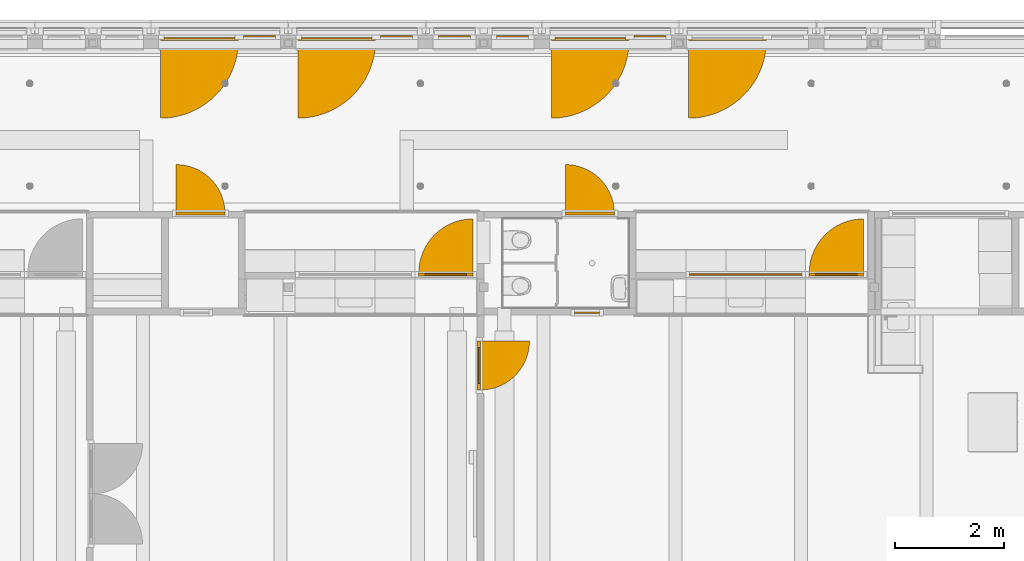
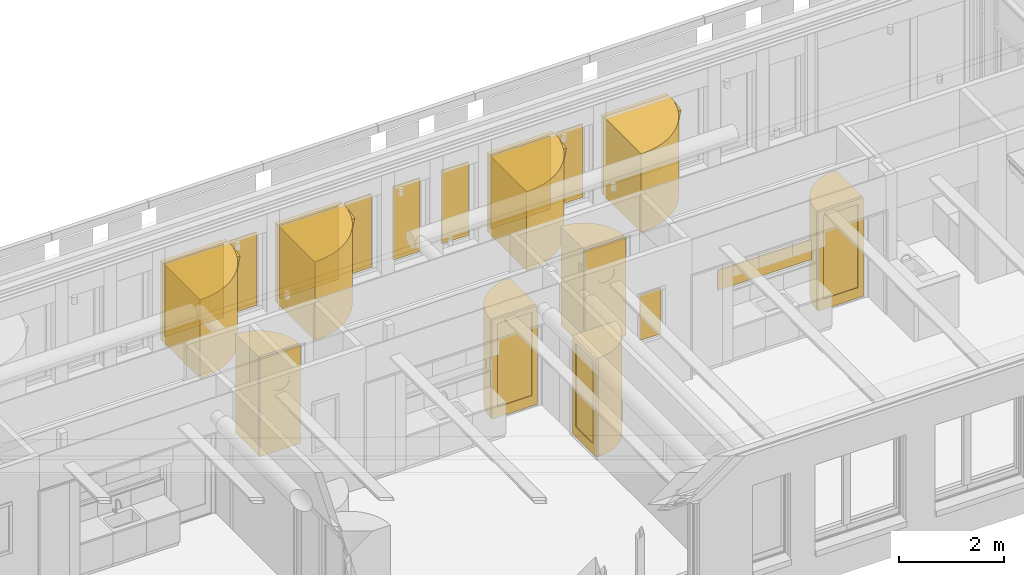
# One storey, part 69 of 128: 26 windows, 5 doors, 9 elements without a shape of their own.
"""IFC2X3 building model written with IfcOpenShell, lengths in millimetres."""

from ifc_helpers import new_model, entity, si_unit, converted_unit, derived_unit, direction, frame, frame_2d, origin, origin_2d_with_axis, place, context, subcontext, project, spatial, polyline, circle_curve, parameter, trimmed, segment, composite_curve, rectangle, circle, outline, extrude, source, transform, mapped, material, material_list, type_object, type_shapes, element, aggregate, save


model = new_model("IFC2X3")

# Units and contexts
model_context = context("Model", 3, precision=0.01, world=origin(), true_north=direction((6.123031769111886e-17, 1.0)))
body_context = subcontext(model_context, "Body", "Model", "MODEL_VIEW")
ifc_project = project(units=[si_unit("LENGTHUNIT", "METRE", prefix="MILLI"), si_unit("AREAUNIT", "SQUARE_METRE"), si_unit("VOLUMEUNIT", "CUBIC_METRE"), converted_unit("PLANEANGLEUNIT", "DEGREE", entity("IfcRatioMeasure", 0.017453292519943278), si_unit("PLANEANGLEUNIT", "RADIAN"), dimensions=[0, 0, 0, 0, 0, 0, 0]), si_unit("MASSUNIT", "GRAM", prefix="KILO"), derived_unit("MASSDENSITYUNIT", [(si_unit("MASSUNIT", "GRAM", prefix="KILO"), 1), (si_unit("LENGTHUNIT", "METRE"), -3)]), derived_unit("IONCONCENTRATIONUNIT", [(si_unit("MASSUNIT", "GRAM", prefix="KILO"), 1), (si_unit("LENGTHUNIT", "METRE"), -3)]), derived_unit("MOMENTOFINERTIAUNIT", [(si_unit("LENGTHUNIT", "METRE"), 4)]), si_unit("TIMEUNIT", "SECOND"), si_unit("FREQUENCYUNIT", "HERTZ"), si_unit("THERMODYNAMICTEMPERATUREUNIT", "DEGREE_CELSIUS"), derived_unit("THERMALTRANSMITTANCEUNIT", [(si_unit("MASSUNIT", "GRAM", prefix="KILO"), 1), (si_unit("THERMODYNAMICTEMPERATUREUNIT", "KELVIN"), -1), (si_unit("TIMEUNIT", "SECOND"), -3)]), derived_unit("THERMALCONDUCTANCEUNIT", [(si_unit("MASSUNIT", "GRAM", prefix="KILO"), 1), (si_unit("THERMODYNAMICTEMPERATUREUNIT", "KELVIN"), -1), (si_unit("TIMEUNIT", "SECOND"), -3), (si_unit("LENGTHUNIT", "METRE"), 1)]), derived_unit("VOLUMETRICFLOWRATEUNIT", [(si_unit("LENGTHUNIT", "METRE"), 3), (si_unit("TIMEUNIT", "SECOND"), -1)]), derived_unit("MASSFLOWRATEUNIT", [(si_unit("MASSUNIT", "GRAM", prefix="KILO"), 1), (si_unit("TIMEUNIT", "SECOND"), -1)]), derived_unit("ROTATIONALFREQUENCYUNIT", [(si_unit("TIMEUNIT", "SECOND"), -1)]), si_unit("ELECTRICCURRENTUNIT", "AMPERE"), si_unit("ELECTRICVOLTAGEUNIT", "VOLT"), si_unit("POWERUNIT", "WATT"), si_unit("FORCEUNIT", "NEWTON", prefix="KILO"), si_unit("ILLUMINANCEUNIT", "LUX"), si_unit("LUMINOUSFLUXUNIT", "LUMEN"), si_unit("LUMINOUSINTENSITYUNIT", "CANDELA"), derived_unit("USERDEFINED", [(si_unit("MASSUNIT", "GRAM", prefix="KILO"), -1), (si_unit("LENGTHUNIT", "METRE"), -2), (si_unit("TIMEUNIT", "SECOND"), 3), (si_unit("LUMINOUSFLUXUNIT", "LUMEN"), 1)]), derived_unit("USERDEFINED", [(si_unit("MASSUNIT", "GRAM", prefix="KILO"), 1), (si_unit("TIMEUNIT", "SECOND"), -3), (si_unit("LENGTHUNIT", "METRE"), 3), (si_unit("ELECTRICCURRENTUNIT", "AMPERE"), -2)]), derived_unit("SOUNDPOWERUNIT", [(si_unit("MASSUNIT", "GRAM", prefix="KILO"), 1), (si_unit("TIMEUNIT", "SECOND"), -3), (si_unit("LENGTHUNIT", "METRE"), 2)]), derived_unit("SOUNDPRESSUREUNIT", [(si_unit("MASSUNIT", "GRAM", prefix="KILO"), 1), (si_unit("LENGTHUNIT", "METRE"), -1), (si_unit("TIMEUNIT", "SECOND"), -2)]), derived_unit("LINEARVELOCITYUNIT", [(si_unit("LENGTHUNIT", "METRE"), 1), (si_unit("TIMEUNIT", "SECOND"), -1)]), si_unit("PRESSUREUNIT", "PASCAL"), derived_unit("USERDEFINED", [(si_unit("MASSUNIT", "GRAM", prefix="KILO"), 1), (si_unit("LENGTHUNIT", "METRE"), -2), (si_unit("TIMEUNIT", "SECOND"), -2)]), derived_unit("LINEARFORCEUNIT", [(si_unit("MASSUNIT", "GRAM", prefix="KILO"), 1), (si_unit("TIMEUNIT", "SECOND"), -2)]), derived_unit("PLANARFORCEUNIT", [(si_unit("MASSUNIT", "GRAM", prefix="KILO"), 1), (si_unit("LENGTHUNIT", "METRE"), -1), (si_unit("TIMEUNIT", "SECOND"), -2)]), derived_unit("SPECIFICHEATCAPACITYUNIT", [(si_unit("THERMODYNAMICTEMPERATUREUNIT", "KELVIN"), -1), (si_unit("LENGTHUNIT", "METRE"), 2), (si_unit("TIMEUNIT", "SECOND"), -2)]), derived_unit("HEATINGVALUEUNIT", [(si_unit("LENGTHUNIT", "METRE"), 2), (si_unit("TIMEUNIT", "SECOND"), -2)]), derived_unit("VAPORPERMEABILITYUNIT", [(si_unit("LENGTHUNIT", "METRE"), -1), (si_unit("TIMEUNIT", "SECOND"), 1)]), derived_unit("DYNAMICVISCOSITYUNIT", [(si_unit("MASSUNIT", "GRAM", prefix="KILO"), 1), (si_unit("TIMEUNIT", "SECOND"), -1), (si_unit("LENGTHUNIT", "METRE"), -1)]), derived_unit("THERMALEXPANSIONCOEFFICIENTUNIT", [(si_unit("THERMODYNAMICTEMPERATUREUNIT", "KELVIN"), -1)]), derived_unit("MODULUSOFELASTICITYUNIT", [(si_unit("MASSUNIT", "GRAM", prefix="KILO"), 1), (si_unit("LENGTHUNIT", "METRE"), -1), (si_unit("TIMEUNIT", "SECOND"), -2)]), derived_unit("ISOTHERMALMOISTURECAPACITYUNIT", [(si_unit("LENGTHUNIT", "METRE"), 3), (si_unit("MASSUNIT", "GRAM", prefix="KILO"), -1)]), derived_unit("MOISTUREDIFFUSIVITYUNIT", [(si_unit("TIMEUNIT", "SECOND"), -1), (si_unit("LENGTHUNIT", "METRE"), 2)])], contexts=[model_context])

# Site, building, storey
site_placement = place(None, frame((0.0, 300.0, 0.0)))
site = spatial("IfcSite", under=ifc_project, at=site_placement, Name="<Kadastrale nummers>", CompositionType="ELEMENT")
building_placement = place(site_placement, origin())
building = spatial("IfcBuilding", under=site, at=building_placement, CompositionType="ELEMENT")
storey_placement = place(building_placement, frame((0.0, 0.0, 3560.0000331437)))
storey = spatial("IfcBuildingStorey", under=building, at=storey_placement, Name="01 eerste verdieping", CompositionType="ELEMENT", Elevation=3560.0000331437)

# Windows
ifc_material_1 = material(Name="Clearance Zones")
window_style_1 = type_object("IfcWindowStyle", Name="BU deur links:BU deur links", ConstructionType="NOTDEFINED", OperationType="NOTDEFINED", ParameterTakesPrecedence=False, Sizeable=False, material=ifc_material_1)
shared_shape_1 = source(origin(), body_context, "Body", "SweptSolid", [
    extrude(outline(composite_curve([segment(trimmed(circle_curve(frame_2d((300.0, 300.0), x_axis=(1.0, 0.0)), 900.0000000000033), [parameter(180.00000000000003)], [parameter(269.9999999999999)], True, "PARAMETER"), True, "CONTINUOUS"), segment(polyline([(300.0, -600.0), (300.0, 300.0)]), True, "CONTINUOUS"), segment(polyline([(300.0, 300.0), (-600.0, 300.0)]), True, "CONTINUOUS")], self_intersect=False)), frame((-150.0, 327.0, -20.0), z_axis=(0.0, 0.0, 1.0), x_axis=(-1.0, 0.0, 0.0)), (0.0, 0.0, 1.0), 2303.0000000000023),
])
type_shapes(window_style_1, [shared_shape_1])
for number, where, name in (
    (1, (26558.00137672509, 46633.24999999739, 130.00000187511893), "BU deur links:BU deur links"),
    (2, (19383.00137671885, 46633.25000000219, 130.00000187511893), "BU deur links:BU deur links"),
):
    element("IfcWindow", number, at=place(storey_placement, frame(where)), inside=storey, type_object=window_style_1, material=ifc_material_1, Name=name, ObjectType="BU deur links:BU deur links", OverallHeight=1184.0000000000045, OverallWidth=900.0000000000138, context=body_context, shape_type="MappedRepresentation", body=[
        mapped(shared_shape_1, transform((0.0, 0.0, 0.0), scale=1.0)),
    ])
window_1_placement = place(storey_placement, frame((24517.0, 43858.0, 130.00000187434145), z_axis=(0.0, 0.0, 1.0), x_axis=(0.0, -1.0, 0.0)))
element("IfcWindow", 3, at=window_1_placement, inside=storey, type_object=window_style_1, material=ifc_material_1, Name="BU deur links:BU deur links", ObjectType="BU deur links:BU deur links", OverallHeight=1184.0000000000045, OverallWidth=900.0000000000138, context=body_context, shape_type="MappedRepresentation", body=[
    mapped(shared_shape_1, transform((0.0, 0.0, 0.0), scale=1.0)),
])

# Curtain wall, door
curtain_wall_type_1 = type_object("IfcCurtainWallType", Name="Curtain Wall:Merk H09", PredefinedType="NOTDEFINED")
curtain_wall_1_placement = place(storey_placement, frame((0.0, 0.0, -3560.0000331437)))
curtain_wall_1 = element("IfcCurtainWall", 4, at=curtain_wall_1_placement, inside=storey, type_object=curtain_wall_type_1, Name="Curtain Wall:Merk H09", ObjectType="Curtain Wall:Merk H09")
ifc_material_2 = material(Name="ISR_HPL Kleur hout")
door_style_1 = type_object("IfcDoorStyle", Name="31_DO_deur_met_stapeldorpel:deur_met_stapeldorpel", ConstructionType="NOTDEFINED", OperationType="NOTDEFINED", ParameterTakesPrecedence=False, Sizeable=False, material=ifc_material_2)
shared_shape_2 = source(origin(), body_context, "Body", "SweptSolid", [
    extrude(outline(polyline([(-500.0, -1151.4999999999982), (500.0, -1151.4999999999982), (500.0, 1151.4999999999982), (-500.0, 1151.4999999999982), (-500.0, -1151.4999999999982)]), holes=[polyline([(-380.0, 911.499999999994), (380.0, 911.4999999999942), (380.0, -1031.4999999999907), (-380.0, -1031.499999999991), (-380.0, 911.499999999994)])]), frame((0.0, 57.0, 1151.5000000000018), z_axis=(0.0, 1.0, 0.0), x_axis=(1.0, 0.0, 0.0)), (0.0, 0.0, 1.0), 26.999999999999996),
    extrude(outline(polyline([(-500.0, -1151.4999999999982), (500.0, -1151.4999999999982), (500.0, 1151.4999999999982), (-500.0, 1151.4999999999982), (-500.0, -1151.4999999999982)]), holes=[polyline([(-380.0, 911.4999999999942), (380.0, 911.4999999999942), (380.0, -1031.4999999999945), (-380.0, -1031.4999999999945), (-380.0, 911.4999999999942)])]), frame((0.0, 30.0, 1151.5000000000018), z_axis=(0.0, 1.0, 0.0), x_axis=(1.0, 0.0, 0.0)), (0.0, 0.0, 1.0), 26.99999999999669),
])
type_shapes(door_style_1, [shared_shape_2])
door_1_placement = place(curtain_wall_1_placement, frame((23903.0, 45476.0, 3670.0000350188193)))
door_1 = element("IfcDoor", 5, at=door_1_placement, type_object=door_style_1, material=ifc_material_2, Name="31_DO_deur_met_stapeldorpel:deur_met_stapeldorpel", ObjectType="31_DO_deur_met_stapeldorpel:deur_met_stapeldorpel", OverallHeight=2303.0000000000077, OverallWidth=1000.0000000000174, context=body_context, shape_type="MappedRepresentation", body=[
    mapped(shared_shape_2, transform((0.0, 0.0, 0.0), scale=1.0)),
])
aggregate(curtain_wall_1, [door_1])

curtain_wall_2_placement = place(storey_placement, frame((0.0, 0.0, -3560.0000331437)))
curtain_wall_2 = element("IfcCurtainWall", 6, at=curtain_wall_2_placement, inside=storey, type_object=curtain_wall_type_1, Name="Curtain Wall:Merk H09", ObjectType="Curtain Wall:Merk H09")
door_2_placement = place(curtain_wall_2_placement, frame((31098.0, 45476.0, 3670.0000350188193)))
door_2 = element("IfcDoor", 7, at=door_2_placement, type_object=door_style_1, material=ifc_material_2, Name="31_DO_deur_met_stapeldorpel:deur_met_stapeldorpel", ObjectType="31_DO_deur_met_stapeldorpel:deur_met_stapeldorpel", OverallHeight=2303.0000000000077, OverallWidth=1000.0000000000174, context=body_context, shape_type="MappedRepresentation", body=[
    mapped(shared_shape_2, transform((0.0, 0.0, 0.0), scale=1.0)),
])
aggregate(curtain_wall_2, [door_2])

# Window
ifc_material_3 = material(Name="glas_enscape")
window_style_2 = type_object("IfcWindowStyle", Name="WI_subvak1:glas 2", ConstructionType="NOTDEFINED", OperationType="NOTDEFINED", ParameterTakesPrecedence=False, Sizeable=False, material=ifc_material_3)
shared_shape_3 = source(origin(), body_context, "Body", "SweptSolid", [
    extrude(rectangle(XDim=660.0000000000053, YDim=24.00000000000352, at=origin_2d_with_axis()), origin(), (0.0, 0.0, 1.0), 1942.999999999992),
])
type_shapes(window_style_2, [shared_shape_3])
window_2_placement = place(storey_placement, frame((24517.0, 43858.0, 350.00000187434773), z_axis=(0.0, 0.0, 1.0), x_axis=(0.0, 1.0, 0.0)))
element("IfcWindow", 8, at=window_2_placement, inside=storey, type_object=window_style_2, material=ifc_material_3, Name="WI_subvak1:glas 2", ObjectType="WI_subvak1:glas 2", OverallHeight=609.9286498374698, OverallWidth=660.0000000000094, context=body_context, shape_type="MappedRepresentation", body=[
    mapped(shared_shape_3, transform((0.0, 0.0, 0.0), scale=1.0)),
])

# Curtain wall, door
curtain_wall_type_2 = type_object("IfcCurtainWallType", Name="Curtain Wall:Merk H01", PredefinedType="NOTDEFINED")
curtain_wall_3_placement = place(storey_placement, frame((0.0, 0.0, -3560.0000331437)))
curtain_wall_3 = element("IfcCurtainWall", 9, at=curtain_wall_3_placement, inside=storey, type_object=curtain_wall_type_2, Name="Curtain Wall:Merk H01", ObjectType="Curtain Wall:Merk H01")
ifc_material_4 = material(Name="ISR_Kunststof_wit")
ifc_material_5 = material(Name="ISR_Mass_Glazing")
ifc_material_list = material_list([ifc_material_4, ifc_material_5])
door_style_2 = type_object("IfcDoorStyle", Name="31_DO_Rondgat_deur:dichte_deur", ConstructionType="NOTDEFINED", OperationType="NOTDEFINED", ParameterTakesPrecedence=False, Sizeable=False, material=ifc_material_list)
shared_shape_4 = source(origin(), body_context, "Body", "SweptSolid", [
    extrude(outline(polyline([(-450.0, -1151.5000000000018), (450.0, -1151.5000000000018), (450.0, 1151.4999999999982), (-450.0, 1151.5000000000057), (-450.0, -1151.5000000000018)]), holes=[composite_curve([segment(trimmed(circle_curve(frame_2d((0.0, -448.5000000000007), x_axis=(1.0, 0.0)), 200.0), [parameter(4.0711099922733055e-13)], [parameter(179.99999999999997)], True, "PARAMETER"), False, "CONTINUOUS"), segment(trimmed(circle_curve(frame_2d((0.0, -448.5000000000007), x_axis=(1.0, 0.0)), 200.0), [parameter(179.99999999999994)], [parameter(359.9999999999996)], True, "PARAMETER"), False, "CONTINUOUS")], self_intersect=False)]), frame((0.0, 57.0, 1151.5000000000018), z_axis=(0.0, -1.0, 0.0), x_axis=(-1.0, 0.0, 0.0)), (0.0, 0.0, 1.0), 26.999999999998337),
    extrude(outline(polyline([(-450.0, -1151.500000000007), (450.0, -1151.500000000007), (450.0, 1151.499999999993), (-450.0, 1151.5000000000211), (-450.0, -1151.500000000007)]), holes=[composite_curve([segment(trimmed(circle_curve(frame_2d((0.0, -448.49999999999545), x_axis=(1.0, 0.0)), 200.0), [parameter(4.0711099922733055e-13)], [parameter(179.99999999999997)], True, "PARAMETER"), False, "CONTINUOUS"), segment(trimmed(circle_curve(frame_2d((0.0, -448.49999999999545), x_axis=(1.0, 0.0)), 200.0), [parameter(179.99999999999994)], [parameter(359.9999999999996)], True, "PARAMETER"), False, "CONTINUOUS")], self_intersect=False)]), frame((0.0, 84.0, 1151.500000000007), z_axis=(0.0, -1.0, 0.0), x_axis=(-1.0, 0.0, 0.0)), (0.0, 0.0, 1.0), 26.999999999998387),
    extrude(circle(Radius=200.0, at=frame_2d((0.0, -2.707167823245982e-13), x_axis=(1.0, 0.0))), frame((0.0, 66.449031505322, 1600.0), z_axis=(0.0, -1.0, 0.0), x_axis=(1.0, 0.0, 0.0)), (0.0, 0.0, 1.0), 25.1297239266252),
])
type_shapes(door_style_2, [shared_shape_4])
door_3_placement = place(curtain_wall_3_placement, frame((26558.001376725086, 46606.0, 3670.00003501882)))
door_3 = element("IfcDoor", 10, at=door_3_placement, type_object=door_style_2, material=ifc_material_list, Name="31_DO_Rondgat_deur:dichte_deur", ObjectType="31_DO_Rondgat_deur:dichte_deur", OverallHeight=2303.000000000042, OverallWidth=900.0000000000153, context=body_context, shape_type="MappedRepresentation", body=[
    mapped(shared_shape_4, transform((0.0, 0.0, 0.0), scale=1.0)),
])
aggregate(curtain_wall_3, [door_3])

curtain_wall_4_placement = place(storey_placement, frame((0.0, 0.0, -3560.0000331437)))
curtain_wall_4 = element("IfcCurtainWall", 11, at=curtain_wall_4_placement, inside=storey, type_object=curtain_wall_type_2, Name="Curtain Wall:Merk H01", ObjectType="Curtain Wall:Merk H01")
door_4_placement = place(curtain_wall_4_placement, frame((19383.001376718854, 46606.0, 3670.00003501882)))
door_4 = element("IfcDoor", 12, at=door_4_placement, type_object=door_style_2, material=ifc_material_list, Name="31_DO_Rondgat_deur:dichte_deur", ObjectType="31_DO_Rondgat_deur:dichte_deur", OverallHeight=2303.000000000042, OverallWidth=900.0000000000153, context=body_context, shape_type="MappedRepresentation", body=[
    mapped(shared_shape_4, transform((0.0, 0.0, 0.0), scale=1.0)),
])
aggregate(curtain_wall_4, [door_4])

# Windows
window_style_3 = type_object("IfcWindowStyle", Name="WI_subvak1:glas 4", ConstructionType="NOTDEFINED", OperationType="NOTDEFINED", ParameterTakesPrecedence=False, Sizeable=False, material=ifc_material_3)
shared_shape_5 = source(origin(), body_context, "Body", "SweptSolid", [
    extrude(rectangle(XDim=24.000000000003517, YDim=466.0000000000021, at=origin_2d_with_axis()), frame((0.0, 0.0, 0.0), z_axis=(0.0, 0.0, 1.0), x_axis=(0.0, -1.0, 0.0)), (0.0, 0.0, 1.0), 1055.9999999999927),
])
type_shapes(window_style_3, [shared_shape_5])
window_3_placement = place(storey_placement, frame((26505.0, 44832.0, 1357.0), z_axis=(0.0, 0.0, 1.0), x_axis=(-1.0, 0.0, 0.0)))
element("IfcWindow", 13, at=window_3_placement, inside=storey, type_object=window_style_3, material=ifc_material_3, Name="WI_subvak1:glas 4", ObjectType="WI_subvak1:glas 4", OverallHeight=609.9286498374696, OverallWidth=466.00000000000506, context=body_context, shape_type="MappedRepresentation", body=[
    mapped(shared_shape_5, transform((0.0, 0.0, 0.0), scale=1.0)),
])
window_style_4 = type_object("IfcWindowStyle", Name="WI_subvak1:glas 4", ConstructionType="NOTDEFINED", OperationType="NOTDEFINED", ParameterTakesPrecedence=False, Sizeable=False, material=ifc_material_3)
shared_shape_6 = source(origin(), body_context, "Body", "SweptSolid", [
    extrude(rectangle(XDim=24.000000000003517, YDim=2071.0000000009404, at=frame_2d((0.0, 1.1368683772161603e-13), x_axis=(1.0, 0.0))), frame((0.0, 0.0, 0.0), z_axis=(0.0, 0.0, 1.0), x_axis=(0.0, -1.0, 0.0)), (0.0, 0.0, 1.0), 465.9999999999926),
])
type_shapes(window_style_4, [shared_shape_6])
window_4_placement = place(storey_placement, frame((29428.500000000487, 45533.0, 1357.0)))
element("IfcWindow", 14, at=window_4_placement, inside=storey, type_object=window_style_4, material=ifc_material_3, Name="WI_subvak1:glas 4", ObjectType="WI_subvak1:glas 4", OverallHeight=609.9286498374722, OverallWidth=2071.0000000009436, context=body_context, shape_type="MappedRepresentation", body=[
    mapped(shared_shape_6, transform((0.0, 0.0, 0.0), scale=1.0)),
])
window_style_5 = type_object("IfcWindowStyle", Name="WI_subvak1:glas 2", ConstructionType="NOTDEFINED", OperationType="NOTDEFINED", ParameterTakesPrecedence=False, Sizeable=False, material=ifc_material_3)
shared_shape_7 = source(origin(), body_context, "Body", "SweptSolid", [
    extrude(rectangle(XDim=24.000000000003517, YDim=759.9999999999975, at=frame_2d((0.0, -2.842170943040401e-14), x_axis=(1.0, 0.0))), frame((0.0, 0.0, 0.0), z_axis=(0.0, 0.0, 1.0), x_axis=(0.0, -1.0, 0.0)), (0.0, 0.0, 1.0), 1942.999999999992),
])
type_shapes(window_style_5, [shared_shape_7])
for number, where, name in (
    (15, (23903.0, 45533.0, 350.00000187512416), "WI_subvak1:glas 2"),
    (16, (31098.0, 45533.0, 350.00000187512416), "WI_subvak1:glas 2"),
):
    element("IfcWindow", number, at=place(storey_placement, frame(where)), inside=storey, type_object=window_style_5, material=ifc_material_3, Name=name, ObjectType="WI_subvak1:glas 2", OverallHeight=609.9286498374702, OverallWidth=760.0000000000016, context=body_context, shape_type="MappedRepresentation", body=[
        mapped(shared_shape_7, transform((0.0, 0.0, 0.0), scale=1.0)),
    ])
window_style_6 = type_object("IfcWindowStyle", Name="BU deur links:BU deur links", ConstructionType="NOTDEFINED", OperationType="NOTDEFINED", ParameterTakesPrecedence=False, Sizeable=False, material=ifc_material_1)
shared_shape_8 = source(origin(), body_context, "Body", "SweptSolid", [
    extrude(outline(composite_curve([segment(polyline([(-666.6666666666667, -333.33333333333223), (333.3333333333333, -333.33333333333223)]), True, "CONTINUOUS"), segment(polyline([(333.3333333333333, -333.33333333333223), (333.33333333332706, 666.6666666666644)]), True, "CONTINUOUS"), segment(trimmed(circle_curve(frame_2d((333.3333333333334, -333.33333333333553), x_axis=(1.0, 0.0)), 1000.0000000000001), [parameter(90.00000000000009)], [parameter(179.99999999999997)], True, "PARAMETER"), True, "CONTINUOUS")], self_intersect=False)), frame((-166.66666666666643, -360.3333333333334, -20.0), z_axis=(0.0, 0.0, 1.0), x_axis=(-1.0, 0.0, 0.0)), (0.0, 0.0, 1.0), 2303.0000000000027),
])
type_shapes(window_style_6, [shared_shape_8])
for number, where, z_axis, x_axis, name in (
    (17, (23903.0, 45533.0, 130.00000187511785), (0.0, 0.0, 1.0), (-1.0, 0.0, 0.0), "BU deur links:BU deur links"),
    (18, (31098.0, 45533.0, 130.00000187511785), (0.0, 0.0, 1.0), (-1.0, 0.0, 0.0), "BU deur links:BU deur links"),
):
    element("IfcWindow", number, at=place(storey_placement, frame(where, z_axis=z_axis, x_axis=x_axis)), inside=storey, type_object=window_style_6, material=ifc_material_1, Name=name, ObjectType="BU deur links:BU deur links", OverallHeight=1284.0000000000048, OverallWidth=1000.0000000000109, context=body_context, shape_type="MappedRepresentation", body=[
        mapped(shared_shape_8, transform((0.0, 0.0, 0.0), scale=1.0)),
    ])

# Curtain wall, door
curtain_wall_type_3 = type_object("IfcCurtainWallType", Name="Curtain Wall:Merk H16", PredefinedType="NOTDEFINED")
curtain_wall_5_placement = place(storey_placement, frame((0.0, 0.0, -3560.0000331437)))
curtain_wall_5 = element("IfcCurtainWall", 19, at=curtain_wall_5_placement, inside=storey, type_object=curtain_wall_type_3, Name="Curtain Wall:Merk H16", ObjectType="Curtain Wall:Merk H16")
ifc_material_6 = material(Name="HPL F7853 ocean gray")
door_style_3 = type_object("IfcDoorStyle", Name="31_DO_deur_met_stapeldorpel:deur_met_stapeldorpel", ConstructionType="NOTDEFINED", OperationType="NOTDEFINED", ParameterTakesPrecedence=False, Sizeable=False, material=ifc_material_6)
shared_shape_9 = source(origin(), body_context, "Body", "SweptSolid", [
    extrude(outline(polyline([(-450.0, -1151.4999999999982), (450.0, -1151.4999999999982), (450.0, 1151.4999999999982), (-450.0, 1151.4999999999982), (-450.0, -1151.4999999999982)]), holes=[polyline([(-330.0, 911.499999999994), (330.0, 911.4999999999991), (330.0, -1031.4999999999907), (-330.0, -1031.499999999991), (-330.0, 911.499999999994)])]), frame((0.0, 84.0, 1151.5000000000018), z_axis=(0.0, -1.0, 0.0), x_axis=(-1.0, 0.0, 0.0)), (0.0, 0.0, 1.0), 26.999999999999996),
    extrude(outline(polyline([(-450.0, -1151.4999999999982), (450.0, -1151.4999999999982), (450.0, 1151.4999999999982), (-450.0, 1151.4999999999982), (-450.0, -1151.4999999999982)]), holes=[polyline([(-330.0, 911.4999999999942), (330.0, 911.4999999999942), (330.0, -1031.4999999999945), (-330.0, -1031.4999999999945), (-330.0, 911.4999999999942)])]), frame((0.0, 57.0, 1151.5000000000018), z_axis=(0.0, -1.0, 0.0), x_axis=(-1.0, 0.0, 0.0)), (0.0, 0.0, 1.0), 26.99999999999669),
])
type_shapes(door_style_3, [shared_shape_9])
door_5_placement = place(curtain_wall_5_placement, frame((24460.0, 43858.0, 3670.0000350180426), z_axis=(0.0, 0.0, 1.0), x_axis=(0.0, -1.0, 0.0)))
door_5 = element("IfcDoor", 20, at=door_5_placement, type_object=door_style_3, material=ifc_material_6, Name="31_DO_deur_met_stapeldorpel:deur_met_stapeldorpel", ObjectType="31_DO_deur_met_stapeldorpel:deur_met_stapeldorpel", OverallHeight=2303.0000000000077, OverallWidth=900.0000000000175, context=body_context, shape_type="MappedRepresentation", body=[
    mapped(shared_shape_9, transform((0.0, 0.0, 0.0), scale=1.0)),
])
aggregate(curtain_wall_5, [door_5])

# Curtain wall, window
curtain_wall_type_4 = type_object("IfcCurtainWallType", Name="Curtain Wall:K_22", PredefinedType="NOTDEFINED")
curtain_wall_6_placement = place(storey_placement, frame((0.0, 0.0, -3560.0000331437)))
curtain_wall_6 = element("IfcCurtainWall", 21, at=curtain_wall_6_placement, inside=storey, type_object=curtain_wall_type_4, Name="Curtain Wall:K_22", ObjectType="Curtain Wall:K_22")
ifc_material_7 = material(Name="ISR_Aluminium")
window_style_7 = type_object("IfcWindowStyle", Name="31_WI_raam_1:GEALAN KUBUS RAAM", ConstructionType="NOTDEFINED", OperationType="NOTDEFINED", ParameterTakesPrecedence=False, Sizeable=False, material=ifc_material_7)
shared_shape_10 = source(origin(), body_context, "Body", "SweptSolid", [
    extrude(outline(polyline([(-717.0, -918.9999824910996), (717.0, -918.9999824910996), (717.0, 918.9999824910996), (-717.0, 918.9999824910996), (-717.0, -918.9999824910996)]), holes=[polyline([(-653.0, 854.9999824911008), (653.0, 854.9999824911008), (653.0, -854.9999824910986), (-653.0, -854.9999824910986), (-653.0, 854.9999824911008)])]), frame((0.0, 63.0, 854.9999824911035), z_axis=(0.0, -1.0, 0.0), x_axis=(-1.0, 0.0, 0.0)), (0.0, 0.0, 1.0), 40.50000000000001),
    extrude(outline(polyline([(-717.0, -918.9999824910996), (717.0, -918.9999824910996), (717.0, 918.9999824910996), (-717.0, 918.9999824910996), (-717.0, -918.9999824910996)]), holes=[polyline([(-653.0, 854.9999824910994), (653.0, 854.9999824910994), (653.0, -854.9999824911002), (-653.0, -854.9999824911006), (-653.0, 854.9999824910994)])]), frame((0.0, 22.499999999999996, 854.9999824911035), z_axis=(0.0, -1.0, 0.0), x_axis=(-1.0, 0.0, 0.0)), (0.0, 0.0, 1.0), 40.5),
])
type_shapes(window_style_7, [shared_shape_10])
window_5_placement = place(curtain_wall_6_placement, frame((29093.0, 49868.0, 4580.0000331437)))
window_5 = element("IfcWindow", 22, at=window_5_placement, type_object=window_style_7, material=ifc_material_7, Name="31_WI_raam_1:GEALAN KUBUS RAAM", ObjectType="31_WI_raam_1:GEALAN KUBUS RAAM", OverallHeight=1853.9999649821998, OverallWidth=1434.0000000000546, context=body_context, shape_type="MappedRepresentation", body=[
    mapped(shared_shape_10, transform((0.0, 0.0, 0.0), scale=1.0)),
])
aggregate(curtain_wall_6, [window_5])

curtain_wall_7_placement = place(storey_placement, frame((0.0, 0.0, -3560.0000331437)))
curtain_wall_7 = element("IfcCurtainWall", 23, at=curtain_wall_7_placement, inside=storey, type_object=curtain_wall_type_4, Name="Curtain Wall:K_22", ObjectType="Curtain Wall:K_22")
window_6_placement = place(curtain_wall_7_placement, frame((26563.0, 49868.0, 4580.0000331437)))
window_6 = element("IfcWindow", 24, at=window_6_placement, type_object=window_style_7, material=ifc_material_7, Name="31_WI_raam_1:GEALAN KUBUS RAAM", ObjectType="31_WI_raam_1:GEALAN KUBUS RAAM", OverallHeight=1853.9999649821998, OverallWidth=1434.0000000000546, context=body_context, shape_type="MappedRepresentation", body=[
    mapped(shared_shape_10, transform((0.0, 0.0, 0.0), scale=1.0)),
])
aggregate(curtain_wall_7, [window_6])

curtain_wall_8_placement = place(storey_placement, frame((0.0, 0.0, -3560.0000331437)))
curtain_wall_8 = element("IfcCurtainWall", 25, at=curtain_wall_8_placement, inside=storey, type_object=curtain_wall_type_4, Name="Curtain Wall:K_22", ObjectType="Curtain Wall:K_22")
window_7_placement = place(curtain_wall_8_placement, frame((21893.0, 49868.0, 4580.0000331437)))
window_7 = element("IfcWindow", 26, at=window_7_placement, type_object=window_style_7, material=ifc_material_7, Name="31_WI_raam_1:GEALAN KUBUS RAAM", ObjectType="31_WI_raam_1:GEALAN KUBUS RAAM", OverallHeight=1853.9999649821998, OverallWidth=1434.0000000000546, context=body_context, shape_type="MappedRepresentation", body=[
    mapped(shared_shape_10, transform((0.0, 0.0, 0.0), scale=1.0)),
])
aggregate(curtain_wall_8, [window_7])

curtain_wall_9_placement = place(storey_placement, frame((0.0, 0.0, -3560.0000331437)))
curtain_wall_9 = element("IfcCurtainWall", 27, at=curtain_wall_9_placement, inside=storey, type_object=curtain_wall_type_4, Name="Curtain Wall:K_22", ObjectType="Curtain Wall:K_22")
window_8_placement = place(curtain_wall_9_placement, frame((19363.0, 49868.0, 4580.0000331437)))
window_8 = element("IfcWindow", 28, at=window_8_placement, type_object=window_style_7, material=ifc_material_7, Name="31_WI_raam_1:GEALAN KUBUS RAAM", ObjectType="31_WI_raam_1:GEALAN KUBUS RAAM", OverallHeight=1853.9999649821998, OverallWidth=1434.0000000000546, context=body_context, shape_type="MappedRepresentation", body=[
    mapped(shared_shape_10, transform((0.0, 0.0, 0.0), scale=1.0)),
])
aggregate(curtain_wall_9, [window_8])

# Windows
window_style_8 = type_object("IfcWindowStyle", Name="WI_subvak1:glas 4", ConstructionType="NOTDEFINED", OperationType="NOTDEFINED", ParameterTakesPrecedence=False, Sizeable=False, material=ifc_material_3)
shared_shape_11 = source(origin(), body_context, "Body", "SweptSolid", [
    extrude(rectangle(XDim=590.000000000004, YDim=24.00000000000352, at=frame_2d((0.0, -1.7763568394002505e-15), x_axis=(1.0, 0.0))), origin(), (0.0, 0.0, 1.0), 1709.9999649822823),
])
type_shapes(window_style_8, [shared_shape_11])
for number, where, z_axis, x_axis, name in (
    (29, (25135.0, 49925.0, 1020.0), (0.0, 0.0, 1.0), (-1.0, 0.0, 0.0), "WI_subvak1:glas 4"),
    (30, (24065.0, 49925.0, 1020.0), (0.0, 0.0, 1.0), (-1.0, 0.0, 0.0), "WI_subvak1:glas 4"),
    (31, (27665.0, 49925.0, 1020.0), (0.0, 0.0, 1.0), (-1.0, 0.0, 0.0), "WI_subvak1:glas 4"),
    (32, (22995.0, 49925.0, 1020.0), (0.0, 0.0, 1.0), (-1.0, 0.0, 0.0), "WI_subvak1:glas 4"),
    (33, (20465.0, 49925.0, 1020.0), (0.0, 0.0, 1.0), (-1.0, 0.0, 0.0), "WI_subvak1:glas 4"),
):
    element("IfcWindow", number, at=place(storey_placement, frame(where, z_axis=z_axis, x_axis=x_axis)), inside=storey, type_object=window_style_8, material=ifc_material_3, Name=name, ObjectType="WI_subvak1:glas 4", OverallHeight=609.9286498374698, OverallWidth=590.0000000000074, context=body_context, shape_type="MappedRepresentation", body=[
        mapped(shared_shape_11, transform((0.0, 0.0, 0.0), scale=1.0)),
    ])
window_style_9 = type_object("IfcWindowStyle", Name="BI draai-val rechts:BI draai-val rechts", ConstructionType="NOTDEFINED", OperationType="NOTDEFINED", ParameterTakesPrecedence=False, Sizeable=False, material=ifc_material_1)
shared_shape_12 = source(origin(), body_context, "Body", "SweptSolid", [
    extrude(outline(composite_curve([segment(trimmed(circle_curve(frame_2d((1204.4571999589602, 158.5697986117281), x_axis=(1.0, 0.0)), 1837.999964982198), [parameter(180.00000000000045)], [parameter(195.00000000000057)], True, "PARAMETER"), True, "CONTINUOUS"), segment(polyline([(-570.914434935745, -317.1395972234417), (1204.4571999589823, 158.56979861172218)]), True, "CONTINUOUS"), segment(polyline([(1204.4571999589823, 158.56979861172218), (-633.5427650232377, 158.56979861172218)]), True, "CONTINUOUS")], self_intersect=False)), frame((-717.0, -199.06979861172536, 1184.4571999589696), z_axis=(1.0, 0.0, 0.0), x_axis=(0.0, 0.0, -1.0)), (0.0, 0.0, 1.0), 1434.0000000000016),
    extrude(outline(composite_curve([segment(polyline([(-956.0, -478.0), (478.0, -478.0)]), True, "CONTINUOUS"), segment(polyline([(478.0, -478.0), (478.0, 956.0)]), True, "CONTINUOUS"), segment(trimmed(circle_curve(frame_2d((478.0, -478.0), x_axis=(-1.0, 0.0)), 1434.000000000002), [parameter(270.0000000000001)], [parameter(0.0)], True, "PARAMETER"), True, "CONTINUOUS")], self_intersect=False)), frame((-239.0, -518.5000000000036, -20.0), z_axis=(0.0, 0.0, 1.0), x_axis=(-1.0, 0.0, 0.0)), (0.0, 0.0, 1.0), 1837.999964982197),
])
type_shapes(window_style_9, [shared_shape_12])
for number, where, name in (
    (34, (29093.0, 49890.49999999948, 976.0), "BI draai-val rechts:BI draai-val rechts"),
    (35, (26563.0, 49890.49999999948, 976.0), "BI draai-val rechts:BI draai-val rechts"),
    (36, (21893.0, 49890.499999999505, 976.0), "BI draai-val rechts:BI draai-val rechts"),
    (37, (19363.0, 49890.49999999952, 976.0), "BI draai-val rechts:BI draai-val rechts"),
):
    element("IfcWindow", number, at=place(storey_placement, frame(where)), inside=storey, type_object=window_style_9, material=ifc_material_1, Name=name, ObjectType="BI draai-val rechts:BI draai-val rechts", OverallHeight=1515.0000000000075, OverallWidth=1434.0000000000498, context=body_context, shape_type="MappedRepresentation", body=[
        mapped(shared_shape_12, transform((0.0, 0.0, 0.0), scale=1.0)),
    ])
window_style_10 = type_object("IfcWindowStyle", Name="WI_subvak:glas 2", ConstructionType="NOTDEFINED", OperationType="NOTDEFINED", ParameterTakesPrecedence=False, Sizeable=False, material=ifc_material_3)
shared_shape_13 = source(origin(), body_context, "Body", "SweptSolid", [
    extrude(rectangle(XDim=1306.000000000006, YDim=24.00000000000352, at=frame_2d((0.0, -1.7763568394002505e-15), x_axis=(1.0, 0.0))), origin(), (0.0, 0.0, 1.0), 1709.9999649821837),
])
type_shapes(window_style_10, [shared_shape_13])
for number, where, z_axis, x_axis, name in (
    (38, (26563.0, 49890.49999999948, 1020.0), (0.0, 0.0, 1.0), (-1.0, 0.0, 0.0), "WI_subvak:glas 2"),
    (39, (21893.0, 49890.499999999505, 1020.0), (0.0, 0.0, 1.0), (-1.0, 0.0, 0.0), "WI_subvak:glas 2"),
    (40, (19363.0, 49890.49999999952, 1020.0), (0.0, 0.0, 1.0), (-1.0, 0.0, 0.0), "WI_subvak:glas 2"),
):
    element("IfcWindow", number, at=place(storey_placement, frame(where, z_axis=z_axis, x_axis=x_axis)), inside=storey, type_object=window_style_10, material=ifc_material_3, Name=name, ObjectType="WI_subvak:glas 2", OverallHeight=609.928649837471, OverallWidth=1306.0000000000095, context=body_context, shape_type="MappedRepresentation", body=[
        mapped(shared_shape_13, transform((0.0, 0.0, 0.0), scale=1.0)),
    ])

save(model, "model.ifc")
